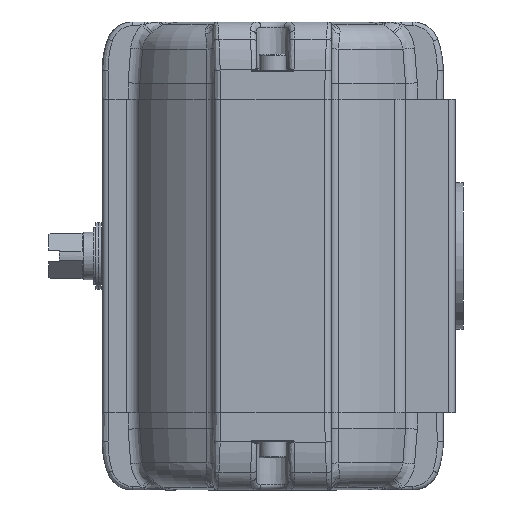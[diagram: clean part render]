
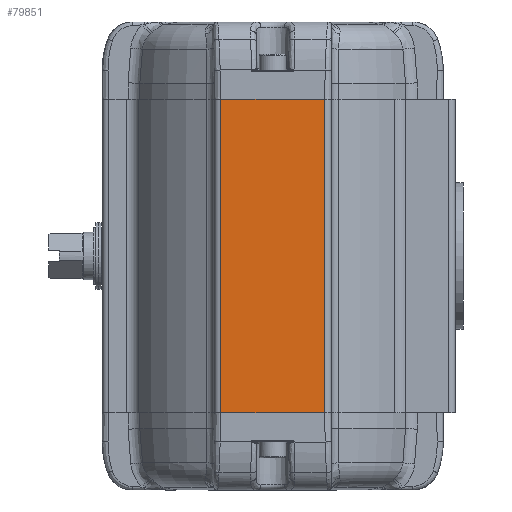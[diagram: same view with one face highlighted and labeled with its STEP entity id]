
A CAD part, left-side view. The second image highlights one B-rep face of the part: STEP entity #79851.
In plain terms, the highlighted planar face has unit normal (-1, 0, 0).
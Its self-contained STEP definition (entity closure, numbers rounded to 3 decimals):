
#38535=CARTESIAN_POINT('',(-64.,19.5,58.75));
#38536=VERTEX_POINT('',#38535);
#42518=CARTESIAN_POINT('',(-64.,-19.5,58.75));
#42519=VERTEX_POINT('',#42518);
#42637=CARTESIAN_POINT('',(-64.,-19.5,58.75));
#42638=DIRECTION('',(0.0,1.0,0.0));
#42639=VECTOR('',#42638,39.0);
#42640=LINE('',#42637,#42639);
#42641=EDGE_CURVE('',#42519,#38536,#42640,.T.);
#73783=CARTESIAN_POINT('',(-64.,-19.5,-58.75));
#73784=VERTEX_POINT('',#73783);
#77766=CARTESIAN_POINT('',(-64.,19.5,-58.75));
#77767=VERTEX_POINT('',#77766);
#77885=CARTESIAN_POINT('',(-64.,19.5,-58.75));
#77886=DIRECTION('',(0.0,-1.0,0.0));
#77887=VECTOR('',#77886,39.0);
#77888=LINE('',#77885,#77887);
#77889=EDGE_CURVE('',#77767,#73784,#77888,.T.);
#79819=CARTESIAN_POINT('',(-64.,-19.5,58.75));
#79820=DIRECTION('',(0.0,0.0,-1.0));
#79821=VECTOR('',#79820,117.5);
#79822=LINE('',#79819,#79821);
#79823=EDGE_CURVE('',#42519,#73784,#79822,.T.);
#79835=CARTESIAN_POINT('',(-64.,-22.0,0.0));
#79836=DIRECTION('',(-1.0,0.0,0.0));
#79837=DIRECTION('',(0.0,0.0,1.0));
#79838=AXIS2_PLACEMENT_3D('',#79835,#79836,#79837);
#79839=PLANE('',#79838);
#79840=ORIENTED_EDGE('',*,*,#79823,.F.);
#79841=ORIENTED_EDGE('',*,*,#42641,.T.);
#79842=CARTESIAN_POINT('',(-64.,19.5,-58.75));
#79843=DIRECTION('',(0.0,0.0,1.0));
#79844=VECTOR('',#79843,117.5);
#79845=LINE('',#79842,#79844);
#79846=EDGE_CURVE('',#77767,#38536,#79845,.T.);
#79847=ORIENTED_EDGE('',*,*,#79846,.F.);
#79848=ORIENTED_EDGE('',*,*,#77889,.T.);
#79849=EDGE_LOOP('',(#79840,#79841,#79847,#79848));
#79850=FACE_OUTER_BOUND('',#79849,.T.);
#79851=ADVANCED_FACE('',(#79850),#79839,.T.);
